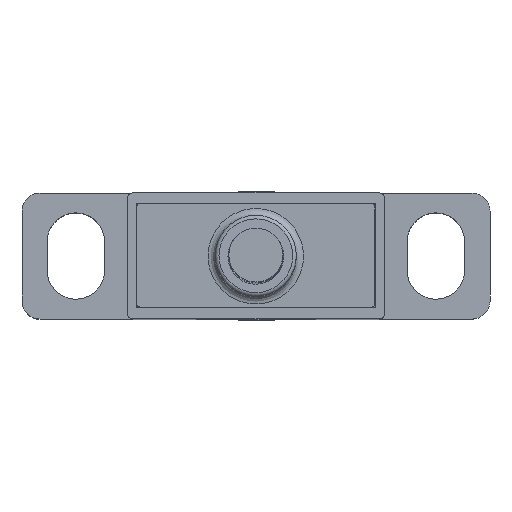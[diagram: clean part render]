
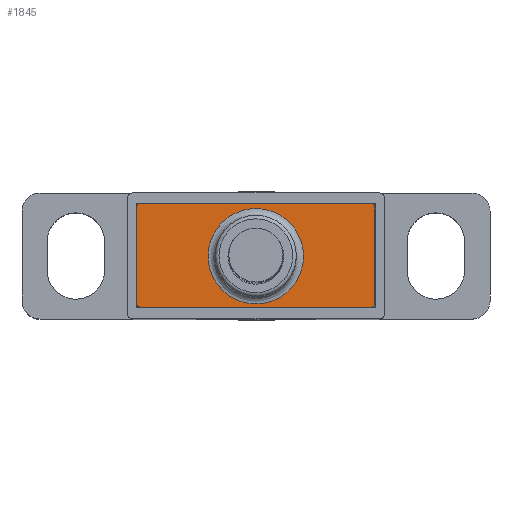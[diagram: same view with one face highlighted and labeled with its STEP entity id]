
A CAD part, top view. The second image highlights one B-rep face of the part: STEP entity #1845.
In plain terms, the highlighted planar face has unit normal (0, 0, 1).
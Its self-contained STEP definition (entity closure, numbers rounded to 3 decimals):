
#271=PLANE('',#5424);
#418=FACE_BOUND('',#2394,.T.);
#419=FACE_BOUND('',#2395,.T.);
#449=ELLIPSE('',#5419,2.65,2.65);
#991=LINE('',#8523,#1554);
#995=LINE('',#8531,#1558);
#997=LINE('',#8539,#1560);
#998=LINE('',#8544,#1561);
#1554=VECTOR('',#6576,1.);
#1558=VECTOR('',#6582,1.);
#1560=VECTOR('',#6590,1.);
#1561=VECTOR('',#6595,1.);
#1845=ADVANCED_FACE('',(#418,#419),#271,.F.);
#2394=EDGE_LOOP('',(#3630));
#2395=EDGE_LOOP('',(#3631,#3632,#3633,#3634,#3635,#3636,#3637,#3638));
#3630=ORIENTED_EDGE('',*,*,#4935,.T.);
#3631=ORIENTED_EDGE('',*,*,#4933,.T.);
#3632=ORIENTED_EDGE('',*,*,#4936,.F.);
#3633=ORIENTED_EDGE('',*,*,#4937,.T.);
#3634=ORIENTED_EDGE('',*,*,#4938,.F.);
#3635=ORIENTED_EDGE('',*,*,#4929,.T.);
#3636=ORIENTED_EDGE('',*,*,#4939,.F.);
#3637=ORIENTED_EDGE('',*,*,#4940,.F.);
#3638=ORIENTED_EDGE('',*,*,#4941,.F.);
#4280=VERTEX_POINT('',#8524);
#4281=VERTEX_POINT('',#8525);
#4282=VERTEX_POINT('',#8530);
#4283=VERTEX_POINT('',#8532);
#4284=VERTEX_POINT('',#8536);
#4285=VERTEX_POINT('',#8538);
#4286=VERTEX_POINT('',#8540);
#4287=VERTEX_POINT('',#8543);
#4288=VERTEX_POINT('',#8545);
#4929=EDGE_CURVE('',#4280,#4281,#991,.T.);
#4933=EDGE_CURVE('',#4283,#4282,#995,.T.);
#4935=EDGE_CURVE('',#4284,#4284,#449,.T.);
#4936=EDGE_CURVE('',#4285,#4282,#5103,.T.);
#4937=EDGE_CURVE('',#4285,#4286,#997,.T.);
#4938=EDGE_CURVE('',#4280,#4286,#5104,.T.);
#4939=EDGE_CURVE('',#4287,#4281,#5105,.T.);
#4940=EDGE_CURVE('',#4288,#4287,#998,.T.);
#4941=EDGE_CURVE('',#4283,#4288,#5106,.T.);
#5103=CIRCLE('',#5420,0.2);
#5104=CIRCLE('',#5421,0.2);
#5105=CIRCLE('',#5422,0.2);
#5106=CIRCLE('',#5423,0.2);
#5419=AXIS2_PLACEMENT_3D('',#8535,#6586,#6587);
#5420=AXIS2_PLACEMENT_3D('',#8537,#6588,#6589);
#5421=AXIS2_PLACEMENT_3D('',#8541,#6591,#6592);
#5422=AXIS2_PLACEMENT_3D('',#8542,#6593,#6594);
#5423=AXIS2_PLACEMENT_3D('',#8546,#6596,#6597);
#5424=AXIS2_PLACEMENT_3D('',#8547,#6598,#6599);
#6576=DIRECTION('',(0.,1.,0.));
#6582=DIRECTION('',(0.,-1.,0.));
#6586=DIRECTION('',(0.,0.,-1.));
#6587=DIRECTION('',(0.,-1.,0.));
#6588=DIRECTION('',(0.,0.,-1.));
#6589=DIRECTION('',(0.,-1.,0.));
#6590=DIRECTION('',(1.,0.,0.));
#6591=DIRECTION('',(0.,0.,-1.));
#6592=DIRECTION('',(1.,0.,0.));
#6593=DIRECTION('',(0.,0.,-1.));
#6594=DIRECTION('',(0.,1.,0.));
#6595=DIRECTION('',(1.,0.,0.));
#6596=DIRECTION('',(0.,0.,-1.));
#6597=DIRECTION('',(-1.,0.,0.));
#6598=DIRECTION('',(0.,0.,-1.));
#6599=DIRECTION('',(-1.,0.,0.));
#8523=CARTESIAN_POINT('',(-176.69,-3.786,15.988));
#8524=CARTESIAN_POINT('',(-176.69,-6.426,15.988));
#8525=CARTESIAN_POINT('',(-176.69,-1.066,15.988));
#8530=CARTESIAN_POINT('',(-189.93,-6.426,15.988));
#8531=CARTESIAN_POINT('',(-189.93,-3.786,15.988));
#8532=CARTESIAN_POINT('',(-189.93,-1.066,15.988));
#8535=CARTESIAN_POINT('',(-183.31,-3.804,15.988));
#8536=CARTESIAN_POINT('',(-183.31,-6.454,15.988));
#8537=CARTESIAN_POINT('',(-189.73,-6.426,15.988));
#8538=CARTESIAN_POINT('',(-189.73,-6.626,15.988));
#8539=CARTESIAN_POINT('',(-183.31,-6.626,15.988));
#8540=CARTESIAN_POINT('',(-176.89,-6.626,15.988));
#8541=CARTESIAN_POINT('',(-176.89,-6.426,15.988));
#8542=CARTESIAN_POINT('',(-176.89,-1.066,15.988));
#8543=CARTESIAN_POINT('',(-176.89,-0.866,15.988));
#8544=CARTESIAN_POINT('',(-183.31,-0.866,15.988));
#8545=CARTESIAN_POINT('',(-189.73,-0.866,15.988));
#8546=CARTESIAN_POINT('',(-189.73,-1.066,15.988));
#8547=CARTESIAN_POINT('',(-183.31,-3.786,15.988));
